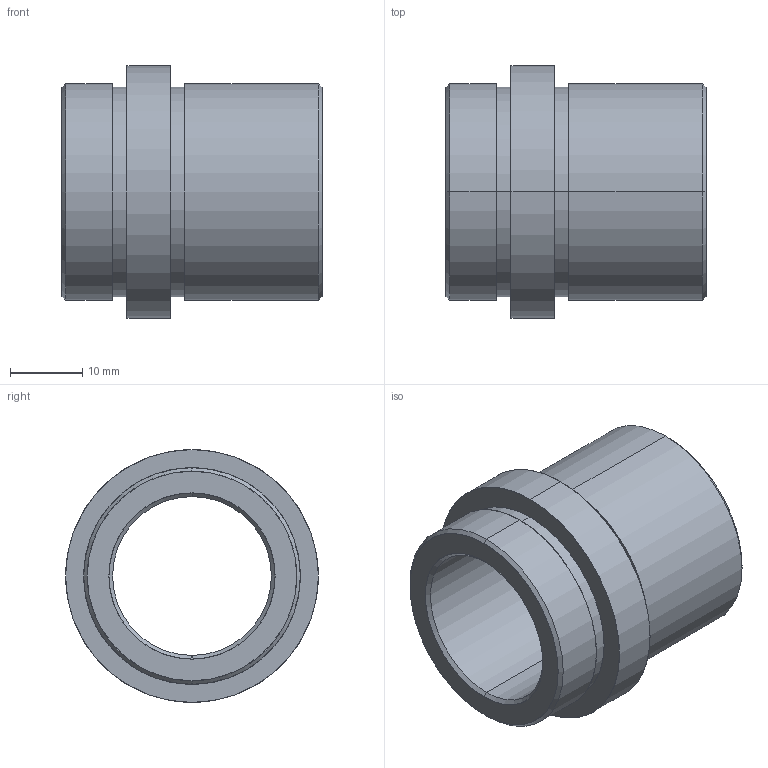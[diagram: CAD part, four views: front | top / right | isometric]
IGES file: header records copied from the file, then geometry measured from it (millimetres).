
Start section: SolidWorks IGES FILE using analytic representation for surfaces
Global section: file name: D:\zzzzz\Delta\D21\22\D21 - 22x27.IGS; native system: SolidWorks 2004 by SolidWorks Corporation; preprocessor: Version 5.3; author: Hkn; date: 080326.192445; units: millimetre
Bounding box: 36 x 35 x 35 mm (x, y, z)
Surface area: 7216.4 mm2 (no closed solid volume)
Topology: 0 solids, 0 shells, 26 faces, 784 edges, 784 vertices
Faces by surface type: revolution 20, bspline 6
